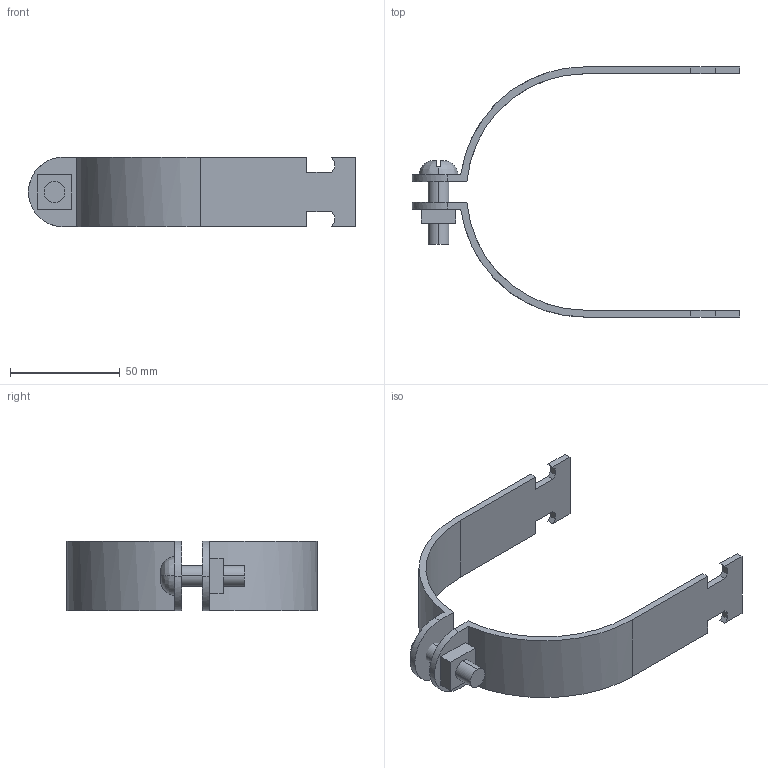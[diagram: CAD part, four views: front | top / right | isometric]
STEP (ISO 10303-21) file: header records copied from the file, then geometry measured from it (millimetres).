
FILE_DESCRIPTION(('TurboCAD Mac Pro'),'Build 980');
FILE_NAME('P2056.stp',' ',(''),(''),'ACIS Interop','IMSI','TurboCAD Mac Pro BY IMSI, INCORPORATED');
FILE_SCHEMA(('automotive_design'));
Length unit declared in the file: inch
Products named in the file (5): 1; 2; 3; 4; 5
Bounding box: 149.22 x 114.15 x 31.74 mm (x, y, z)
Volume: 37937.8 mm3; surface area: 26456.6 mm2
Topology: 4 solids, 4 shells, 71 faces, 186 edges, 124 vertices
Faces by surface type: plane 51, bspline 20
Entity records: 4185 total; most frequent: CARTESIAN_POINT 1034, ORIENTED_EDGE 372, DIRECTION 258, STYLED_ITEM 237, PRESENTATION_STYLE_ASSIGNMENT 237, COLOUR_RGB 237, EDGE_CURVE 186, CURVE_STYLE 162
